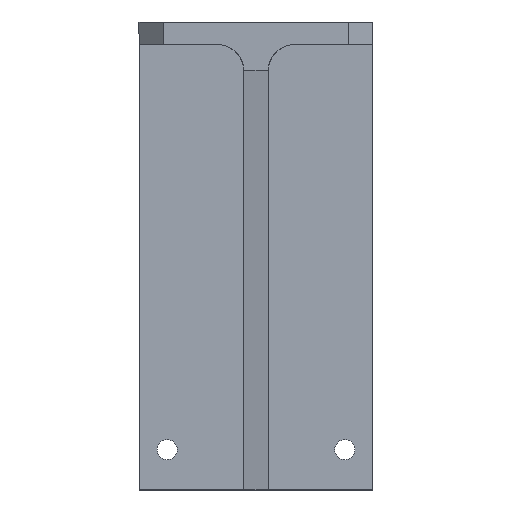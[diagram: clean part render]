
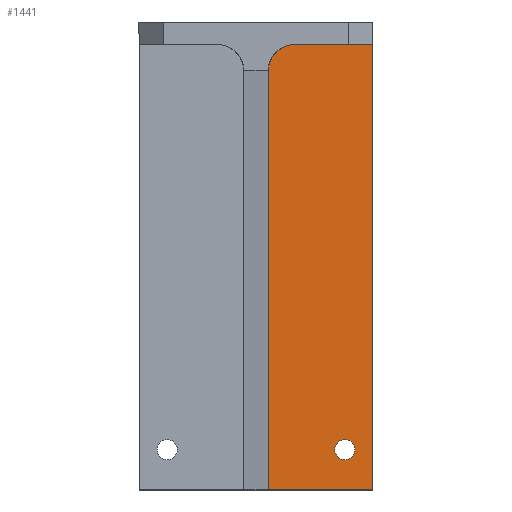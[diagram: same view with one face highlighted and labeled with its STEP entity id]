
A CAD part, left-side view. The second image highlights one B-rep face of the part: STEP entity #1441.
In plain terms, the highlighted planar face has unit normal (-1, 0, 0).
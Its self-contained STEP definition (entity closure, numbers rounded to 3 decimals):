
#90 = DIRECTION ( 'NONE',  ( 0., 0., -1. ) ) ;
#110 = CIRCLE ( 'NONE', #541, 3.3 ) ;
#131 = DIRECTION ( 'NONE',  ( -1., 0., 0. ) ) ;
#132 = CARTESIAN_POINT ( 'NONE',  ( 11., 9.7, -6.1 ) ) ;
#176 = LINE ( 'NONE', #1707, #203 ) ;
#178 = CARTESIAN_POINT ( 'NONE',  ( 11., 3.5, -51.75 ) ) ;
#181 = DIRECTION ( 'NONE',  ( 1., 0., 0. ) ) ;
#203 = VECTOR ( 'NONE', #1036, 1000. ) ;
#224 = EDGE_LOOP ( 'NONE', ( #1706, #979 ) ) ;
#240 = PLANE ( 'NONE',  #976 ) ;
#337 = ORIENTED_EDGE ( 'NONE', *, *, #1133, .T. ) ;
#373 = VERTEX_POINT ( 'NONE', #622 ) ;
#374 = VERTEX_POINT ( 'NONE', #613 ) ;
#380 = VERTEX_POINT ( 'NONE', #581 ) ;
#408 = ORIENTED_EDGE ( 'NONE', *, *, #1691, .F. ) ;
#422 = VERTEX_POINT ( 'NONE', #178 ) ;
#439 = LINE ( 'NONE', #1594, #1745 ) ;
#480 = DIRECTION ( 'NONE',  ( 0., -1., 0. ) ) ;
#508 = DIRECTION ( 'NONE',  ( 1., 0., 0. ) ) ;
#526 = CARTESIAN_POINT ( 'NONE',  ( 11., 13., -76. ) ) ;
#528 = CIRCLE ( 'NONE', #1245, 1.25 ) ;
#541 = AXIS2_PLACEMENT_3D ( 'NONE', #132, #131, #90 ) ;
#568 = DIRECTION ( 'NONE',  ( 0., 0., -1. ) ) ;
#574 = VECTOR ( 'NONE', #1494, 1000. ) ;
#581 = CARTESIAN_POINT ( 'NONE',  ( 11., 13., -58. ) ) ;
#583 = CARTESIAN_POINT ( 'NONE',  ( 11., 3.5, -53. ) ) ;
#611 = ORIENTED_EDGE ( 'NONE', *, *, #1072, .F. ) ;
#613 = CARTESIAN_POINT ( 'NONE',  ( 11., 13., -6.1 ) ) ;
#622 = CARTESIAN_POINT ( 'NONE',  ( 11., 3.5, -54.25 ) ) ;
#648 = ORIENTED_EDGE ( 'NONE', *, *, #892, .T. ) ;
#711 = DIRECTION ( 'NONE',  ( 1., 0., 0. ) ) ;
#743 = CARTESIAN_POINT ( 'NONE',  ( 11., 3.5, -53. ) ) ;
#759 = EDGE_CURVE ( 'NONE', #373, #422, #528, .T. ) ;
#768 = DIRECTION ( 'NONE',  ( 0., 0., -1. ) ) ;
#804 = FACE_BOUND ( 'NONE', #224, .T. ) ;
#892 = EDGE_CURVE ( 'NONE', #380, #1315, #1397, .T. ) ;
#944 = DIRECTION ( 'NONE',  ( 0., 0., -1. ) ) ;
#976 = AXIS2_PLACEMENT_3D ( 'NONE', #526, #181, #568 ) ;
#979 = ORIENTED_EDGE ( 'NONE', *, *, #1448, .T. ) ;
#1036 = DIRECTION ( 'NONE',  ( 0., -1., 0. ) ) ;
#1072 = EDGE_CURVE ( 'NONE', #380, #374, #1300, .T. ) ;
#1107 = CARTESIAN_POINT ( 'NONE',  ( 11., 9.7, -2.8 ) ) ;
#1125 = FACE_OUTER_BOUND ( 'NONE', #1417, .T. ) ;
#1133 = EDGE_CURVE ( 'NONE', #1315, #1466, #439, .T. ) ;
#1194 = CARTESIAN_POINT ( 'NONE',  ( 11., 0., -58. ) ) ;
#1245 = AXIS2_PLACEMENT_3D ( 'NONE', #743, #711, #768 ) ;
#1300 = LINE ( 'NONE', #1482, #574 ) ;
#1315 = VERTEX_POINT ( 'NONE', #1194 ) ;
#1394 = CARTESIAN_POINT ( 'NONE',  ( 11., 13., -58. ) ) ;
#1397 = LINE ( 'NONE', #1394, #1702 ) ;
#1417 = EDGE_LOOP ( 'NONE', ( #611, #648, #337, #408, #1734 ) ) ;
#1441 = ADVANCED_FACE ( 'NONE', ( #804, #1125 ), #240, .F. ) ;
#1448 = EDGE_CURVE ( 'NONE', #422, #373, #1525, .T. ) ;
#1466 = VERTEX_POINT ( 'NONE', #1703 ) ;
#1470 = VERTEX_POINT ( 'NONE', #1107 ) ;
#1482 = CARTESIAN_POINT ( 'NONE',  ( 11., 13., -76. ) ) ;
#1494 = DIRECTION ( 'NONE',  ( 0., 0., 1. ) ) ;
#1525 = CIRCLE ( 'NONE', #1548, 1.25 ) ;
#1548 = AXIS2_PLACEMENT_3D ( 'NONE', #583, #508, #944 ) ;
#1589 = DIRECTION ( 'NONE',  ( 0., 0., 1. ) ) ;
#1594 = CARTESIAN_POINT ( 'NONE',  ( 11., 0., -76. ) ) ;
#1600 = EDGE_CURVE ( 'NONE', #1470, #374, #110, .T. ) ;
#1691 = EDGE_CURVE ( 'NONE', #1470, #1466, #176, .T. ) ;
#1702 = VECTOR ( 'NONE', #480, 1000. ) ;
#1703 = CARTESIAN_POINT ( 'NONE',  ( 11., 0., -2.8 ) ) ;
#1706 = ORIENTED_EDGE ( 'NONE', *, *, #759, .T. ) ;
#1707 = CARTESIAN_POINT ( 'NONE',  ( 11., 0., -2.8 ) ) ;
#1734 = ORIENTED_EDGE ( 'NONE', *, *, #1600, .T. ) ;
#1745 = VECTOR ( 'NONE', #1589, 1000. ) ;
